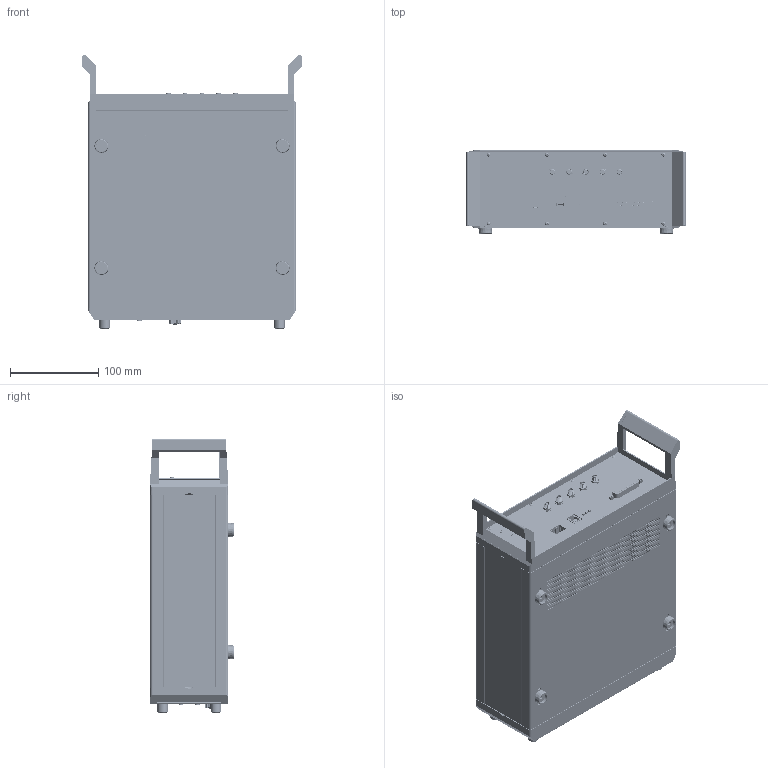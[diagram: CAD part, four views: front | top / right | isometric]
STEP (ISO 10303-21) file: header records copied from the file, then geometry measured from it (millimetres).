
FILE_DESCRIPTION (( 'STEP AP203' ), '1' );
FILE_NAME ('PQ.077.2000.0006.12_MH150_Pico.STEP', '2026-03-27T09:56:29', ( '' ), ( '' ), 'SwSTEP 2.0', 'SolidWorks 2025', '' );
FILE_SCHEMA (( 'CONFIG_CONTROL_DESIGN' ));
Products named in the file (1): PQ.077.2000.0006.12_MH150_Pico
Bounding box: 248.74 x 94.62 x 311.45 mm (x, y, z)
Surface area: 461830.3 mm2 (no closed solid volume)
Topology: 0 solids, 273 shells, 2972 faces, 13091 edges, 10262 vertices
Faces by surface type: cylinder 1455, plane 1160, cone 242, bspline 93, sphere 22
Full cylindrical faces by diameter (mm): 1 x19, 1.3 x3, 1.5 x1, 1.95 x1, 2 x960, 2.05 x1, 2.261 x2, 3 x3, 3.4 x4, 3.6 x1, 3.8 x8, 3.86 x5, 4 x4, 4.5 x12, 4.61 x9, 4.8 x8, 5.1 x1, 5.35 x9, 5.451 x35, 7 x59, 7.5 x2, 7.7 x7, 9.4 x9, 10 x1, 11.8 x4, 12 x9, 12.6 x5
Entity records: 127041 total; most frequent: CARTESIAN_POINT 28025, DIRECTION 19629, ORIENTED_EDGE 16378, EDGE_CURVE 10740, VERTEX_POINT 9212, AXIS2_PLACEMENT_3D 7011, EDGE_LOOP 6764, VECTOR 5607
